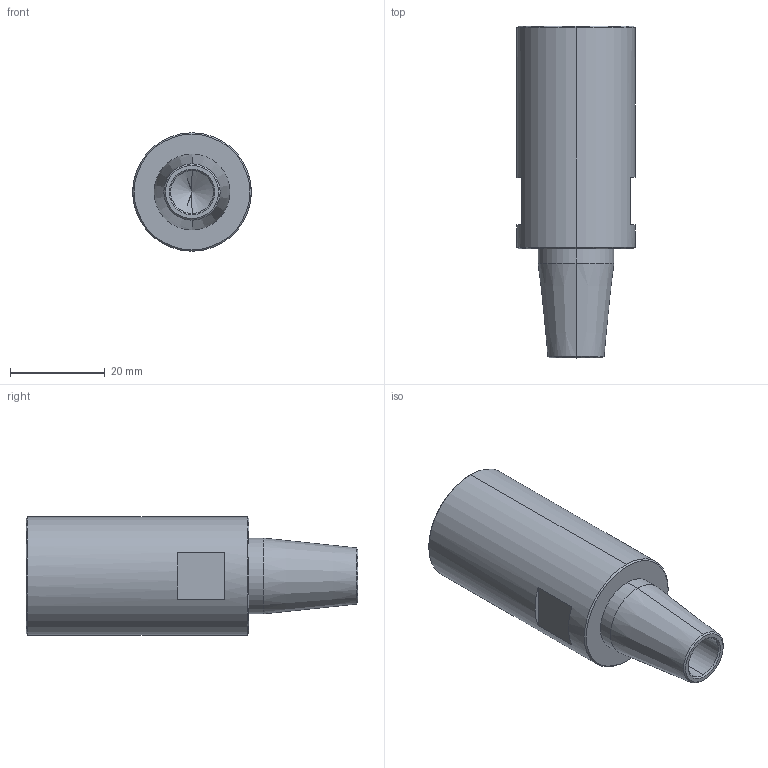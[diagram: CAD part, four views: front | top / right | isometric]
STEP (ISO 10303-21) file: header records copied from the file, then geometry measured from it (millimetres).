
FILE_DESCRIPTION (( 'STEP AP203' ), '1' );
FILE_NAME ('SW-PN-D12-3.STEP', '2022-03-28T06:45:37', ( '' ), ( '' ), 'SwSTEP 2.0', 'SolidWorks 2015', '' );
FILE_SCHEMA (( 'CONFIG_CONTROL_DESIGN' ));
Length unit declared in the file: millimetre
Products named in the file (2): SW-PN-D12-3
Bounding box: 25 x 70 x 25 mm (x, y, z)
Volume: 21588.1 mm3; surface area: 7500.5 mm2
Topology: 1 solids, 1 shells, 33 faces, 68 edges, 38 vertices
Faces by surface type: cone 16, plane 9, cylinder 8
Entity records: 993 total; most frequent: DIRECTION 166, CARTESIAN_POINT 137, ORIENTED_EDGE 128, AXIS2_PLACEMENT_3D 67, EDGE_CURVE 64, EDGE_LOOP 38, VERTEX_POINT 38, FACE_OUTER_BOUND 33
